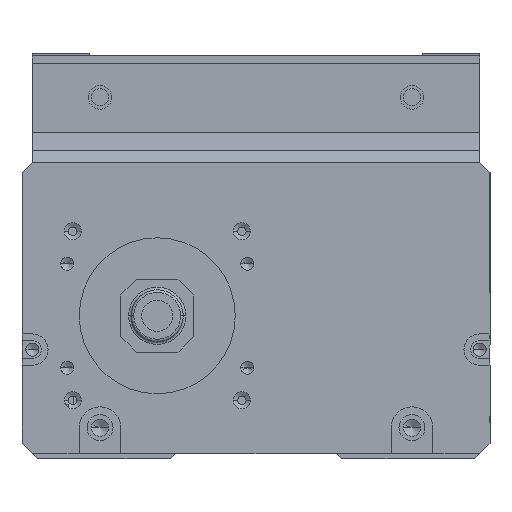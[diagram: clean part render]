
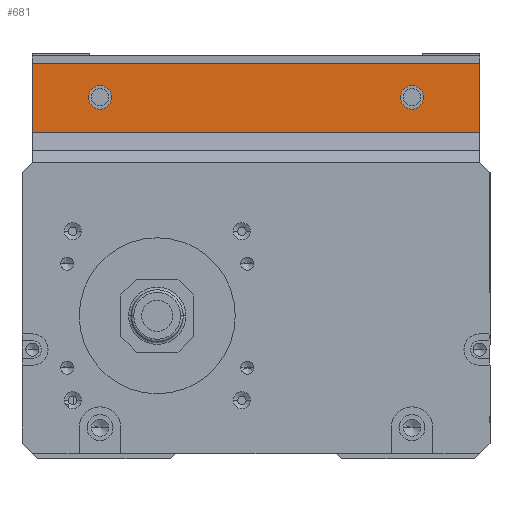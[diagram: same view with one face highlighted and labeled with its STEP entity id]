
A CAD part, front view. The second image highlights one B-rep face of the part: STEP entity #681.
In plain terms, the highlighted planar face has unit normal (0, -1, 0).
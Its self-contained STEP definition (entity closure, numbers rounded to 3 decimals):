
#452 = CARTESIAN_POINT ( 'NONE',  ( 30., 78., -10.25 ) ) ;
#667 = EDGE_LOOP ( 'NONE', ( #2786, #12639, #9380, #6347 ) ) ;
#681 = ADVANCED_FACE ( 'NONE', ( #10120, #15301, #4863 ), #12583, .T. ) ;
#1295 = VERTEX_POINT ( 'NONE', #8549 ) ;
#1337 = CARTESIAN_POINT ( 'NONE',  ( 30., 78., -8. ) ) ;
#1470 = LINE ( 'NONE', #13927, #6958 ) ;
#1799 = AXIS2_PLACEMENT_3D ( 'NONE', #12539, #6022, #12361 ) ;
#2055 = EDGE_CURVE ( 'NONE', #1295, #3957, #5503, .T. ) ;
#2475 = AXIS2_PLACEMENT_3D ( 'NONE', #15530, #15324, #9027 ) ;
#2680 = VERTEX_POINT ( 'NONE', #6881 ) ;
#2786 = ORIENTED_EDGE ( 'NONE', *, *, #3840, .F. ) ;
#3081 = VERTEX_POINT ( 'NONE', #452 ) ;
#3622 = DIRECTION ( 'NONE',  ( 0., -1., 0. ) ) ;
#3766 = CIRCLE ( 'NONE', #1799, 2.25 ) ;
#3840 = EDGE_CURVE ( 'NONE', #12851, #13940, #9241, .T. ) ;
#3957 = VERTEX_POINT ( 'NONE', #4845 ) ;
#4026 = EDGE_LOOP ( 'NONE', ( #9325, #6011 ) ) ;
#4240 = AXIS2_PLACEMENT_3D ( 'NONE', #13844, #3622, #14362 ) ;
#4400 = ORIENTED_EDGE ( 'NONE', *, *, #2055, .T. ) ;
#4845 = CARTESIAN_POINT ( 'NONE',  ( -30., 78., -5.75 ) ) ;
#4863 = FACE_OUTER_BOUND ( 'NONE', #667, .T. ) ;
#5067 = LINE ( 'NONE', #14070, #10334 ) ;
#5503 = CIRCLE ( 'NONE', #2475, 2.25 ) ;
#6011 = ORIENTED_EDGE ( 'NONE', *, *, #14107, .T. ) ;
#6022 = DIRECTION ( 'NONE',  ( 0., 1., 0. ) ) ;
#6320 = DIRECTION ( 'NONE',  ( 0., 1., 0. ) ) ;
#6347 = ORIENTED_EDGE ( 'NONE', *, *, #12657, .T. ) ;
#6698 = DIRECTION ( 'NONE',  ( -1., 0., 0. ) ) ;
#6737 = CARTESIAN_POINT ( 'NONE',  ( 45., 78., -14.788 ) ) ;
#6877 = DIRECTION ( 'NONE',  ( 0., 0., -1. ) ) ;
#6880 = DIRECTION ( 'NONE',  ( 0., 1., 0. ) ) ;
#6881 = CARTESIAN_POINT ( 'NONE',  ( 43., 78., -1.5 ) ) ;
#6927 = CARTESIAN_POINT ( 'NONE',  ( 30., 78., -8. ) ) ;
#6958 = VECTOR ( 'NONE', #13892, 1000. ) ;
#7246 = EDGE_CURVE ( 'NONE', #3957, #1295, #3766, .T. ) ;
#7592 = AXIS2_PLACEMENT_3D ( 'NONE', #1337, #6320, #8667 ) ;
#7681 = VERTEX_POINT ( 'NONE', #11818 ) ;
#7912 = AXIS2_PLACEMENT_3D ( 'NONE', #6927, #6880, #6877 ) ;
#8172 = EDGE_CURVE ( 'NONE', #2680, #10409, #5067, .T. ) ;
#8442 = LINE ( 'NONE', #15626, #13625 ) ;
#8483 = CARTESIAN_POINT ( 'NONE',  ( -43., 78., -14.788 ) ) ;
#8549 = CARTESIAN_POINT ( 'NONE',  ( -30., 78., -10.25 ) ) ;
#8568 = CARTESIAN_POINT ( 'NONE',  ( 43., 78., -14.788 ) ) ;
#8667 = DIRECTION ( 'NONE',  ( 0., 0., -1. ) ) ;
#8884 = EDGE_CURVE ( 'NONE', #3081, #7681, #11811, .T. ) ;
#9027 = DIRECTION ( 'NONE',  ( 0., 0., 1. ) ) ;
#9239 = CARTESIAN_POINT ( 'NONE',  ( -43., 78., -1.5 ) ) ;
#9241 = LINE ( 'NONE', #6737, #14425 ) ;
#9325 = ORIENTED_EDGE ( 'NONE', *, *, #8884, .T. ) ;
#9380 = ORIENTED_EDGE ( 'NONE', *, *, #8172, .T. ) ;
#10120 = FACE_BOUND ( 'NONE', #11374, .T. ) ;
#10334 = VECTOR ( 'NONE', #13966, 1000. ) ;
#10409 = VERTEX_POINT ( 'NONE', #9239 ) ;
#11374 = EDGE_LOOP ( 'NONE', ( #4400, #12277 ) ) ;
#11783 = EDGE_CURVE ( 'NONE', #12851, #2680, #1470, .T. ) ;
#11811 = CIRCLE ( 'NONE', #7592, 2.25 ) ;
#11818 = CARTESIAN_POINT ( 'NONE',  ( 30., 78., -5.75 ) ) ;
#12277 = ORIENTED_EDGE ( 'NONE', *, *, #7246, .T. ) ;
#12361 = DIRECTION ( 'NONE',  ( 0., 0., 1. ) ) ;
#12539 = CARTESIAN_POINT ( 'NONE',  ( -30., 78., -8. ) ) ;
#12583 = PLANE ( 'NONE',  #4240 ) ;
#12639 = ORIENTED_EDGE ( 'NONE', *, *, #11783, .T. ) ;
#12657 = EDGE_CURVE ( 'NONE', #10409, #13940, #8442, .T. ) ;
#12851 = VERTEX_POINT ( 'NONE', #8568 ) ;
#13625 = VECTOR ( 'NONE', #15527, 1000. ) ;
#13844 = CARTESIAN_POINT ( 'NONE',  ( 45., 78., -1.5 ) ) ;
#13892 = DIRECTION ( 'NONE',  ( 0., 0., 1. ) ) ;
#13927 = CARTESIAN_POINT ( 'NONE',  ( 43., 78., -1.5 ) ) ;
#13940 = VERTEX_POINT ( 'NONE', #8483 ) ;
#13966 = DIRECTION ( 'NONE',  ( -1., 0., 0. ) ) ;
#14070 = CARTESIAN_POINT ( 'NONE',  ( 45., 78., -1.5 ) ) ;
#14107 = EDGE_CURVE ( 'NONE', #7681, #3081, #14300, .T. ) ;
#14300 = CIRCLE ( 'NONE', #7912, 2.25 ) ;
#14362 = DIRECTION ( 'NONE',  ( 0., 0., -1. ) ) ;
#14425 = VECTOR ( 'NONE', #6698, 1000. ) ;
#15301 = FACE_BOUND ( 'NONE', #4026, .T. ) ;
#15324 = DIRECTION ( 'NONE',  ( 0., 1., 0. ) ) ;
#15527 = DIRECTION ( 'NONE',  ( 0., 0., -1. ) ) ;
#15530 = CARTESIAN_POINT ( 'NONE',  ( -30., 78., -8. ) ) ;
#15626 = CARTESIAN_POINT ( 'NONE',  ( -43., 78., -1.5 ) ) ;
